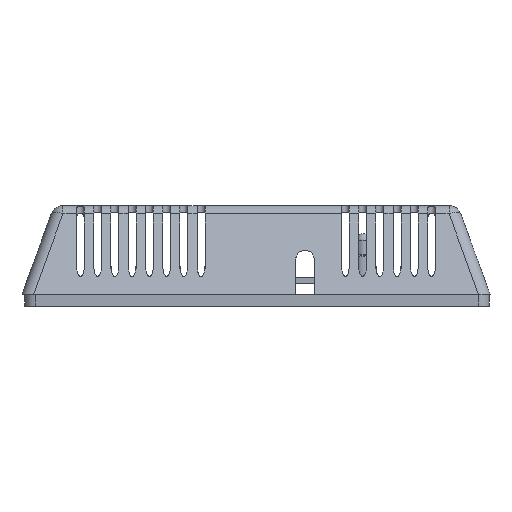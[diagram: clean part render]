
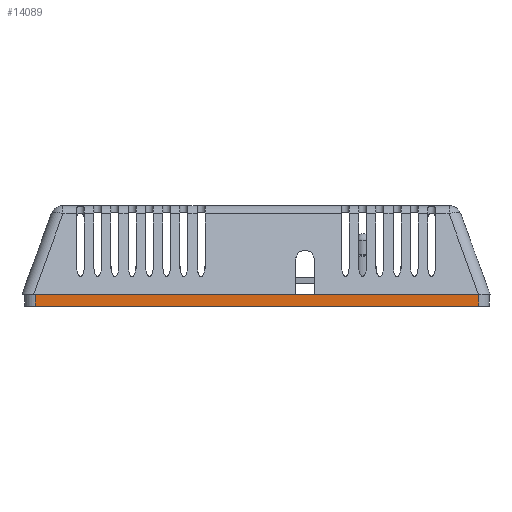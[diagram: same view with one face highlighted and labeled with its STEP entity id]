
A CAD part, left-side view. The second image highlights one B-rep face of the part: STEP entity #14089.
In plain terms, the highlighted planar face has unit normal (-1, 0, 0).
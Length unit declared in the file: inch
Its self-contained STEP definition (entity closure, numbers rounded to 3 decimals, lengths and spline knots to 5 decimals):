
#469=LINE($,#21031,#2008);
#663=LINE($,#21507,#2202);
#664=LINE($,#21511,#2203);
#665=LINE($,#21512,#2204);
#2008=VECTOR($,#16638,4.5);
#2202=VECTOR($,#17042,0.12);
#2203=VECTOR($,#17047,0.12);
#2204=VECTOR($,#17048,4.5);
#3541=PLANE($,#14930);
#4084=FACE_OUTER_BOUND($,#4845,.T.);
#4845=EDGE_LOOP($,(#10413,#10414,#10415,#10416));
#6011=VERTEX_POINT($,#21028);
#6012=VERTEX_POINT($,#21030);
#6157=VERTEX_POINT($,#21506);
#6158=VERTEX_POINT($,#21510);
#7547=EDGE_CURVE($,#6012,#6011,#469,.T.);
#7768=EDGE_CURVE($,#6157,#6012,#663,.T.);
#7770=EDGE_CURVE($,#6158,#6011,#664,.T.);
#7771=EDGE_CURVE($,#6158,#6157,#665,.T.);
#10413=ORIENTED_EDGE($,*,*,#7547,.T.);
#10414=ORIENTED_EDGE($,*,*,#7770,.F.);
#10415=ORIENTED_EDGE($,*,*,#7771,.T.);
#10416=ORIENTED_EDGE($,*,*,#7768,.T.);
#14089=ADVANCED_FACE($,(#4084),#3541,.T.);
#14930=AXIS2_PLACEMENT_3D($,#21509,#17045,#17046);
#16638=DIRECTION($,(0.,1.,0.));
#17042=DIRECTION($,(0.,0.,1.));
#17045=DIRECTION('center_axis',(-1.,0.,0.));
#17046=DIRECTION('ref_axis',(0.,0.,1.));
#17047=DIRECTION($,(0.,0.,1.));
#17048=DIRECTION($,(0.,-1.,0.));
#21028=CARTESIAN_POINT('',(-15.78847,3.59809,0.));
#21030=CARTESIAN_POINT('',(-15.78847,-0.90191,0.));
#21031=CARTESIAN_POINT($,(-15.78847,-0.90191,0.));
#21506=CARTESIAN_POINT('',(-15.78847,-0.90191,-0.12));
#21507=CARTESIAN_POINT($,(-15.78847,-0.90191,-0.12));
#21509=CARTESIAN_POINT('Origin',(-15.78847,-0.90191,-0.06));
#21510=CARTESIAN_POINT('',(-15.78847,3.59809,-0.12));
#21511=CARTESIAN_POINT($,(-15.78847,3.59809,-0.12));
#21512=CARTESIAN_POINT($,(-15.78847,3.59809,-0.12));
